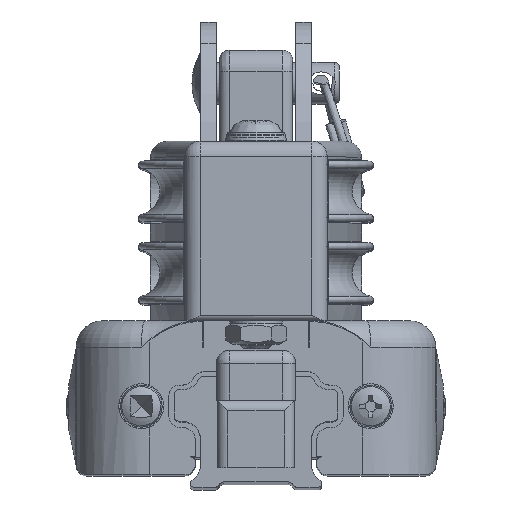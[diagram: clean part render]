
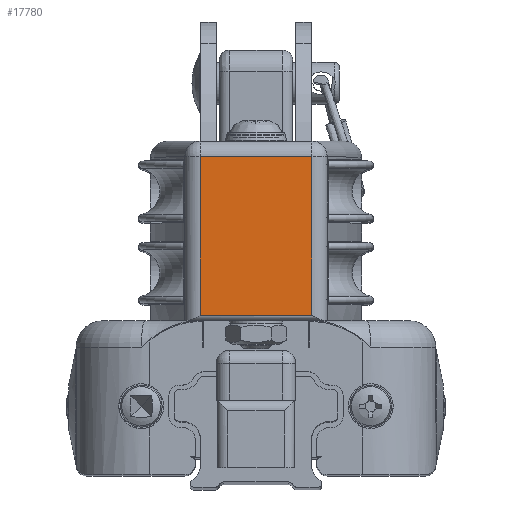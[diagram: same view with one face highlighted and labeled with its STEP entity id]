
A CAD part, top view. The second image highlights one B-rep face of the part: STEP entity #17780.
In plain terms, the highlighted planar face has unit normal (0, 0, 1).
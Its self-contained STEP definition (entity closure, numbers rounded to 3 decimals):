
#1129=LINE('',#29050,#2266);
#1678=LINE('',#33166,#2815);
#1692=LINE('',#33221,#2829);
#1693=LINE('',#33222,#2830);
#2266=VECTOR('',#21765,10.);
#2815=VECTOR('',#24500,10.);
#2829=VECTOR('',#24562,10.);
#2830=VECTOR('',#24563,10.);
#4245=FACE_OUTER_BOUND('',#5310,.T.);
#5310=EDGE_LOOP('',(#15295,#15296,#15297,#15298));
#7187=VERTEX_POINT('',#29030);
#7189=VERTEX_POINT('',#29041);
#8090=VERTEX_POINT('',#33149);
#8096=VERTEX_POINT('',#33164);
#9197=EDGE_CURVE('',#7187,#7189,#1129,.T.);
#10571=EDGE_CURVE('',#8096,#8090,#1678,.T.);
#10597=EDGE_CURVE('',#7187,#8096,#1692,.T.);
#10598=EDGE_CURVE('',#7189,#8090,#1693,.T.);
#15295=ORIENTED_EDGE('',*,*,#10571,.F.);
#15296=ORIENTED_EDGE('',*,*,#10597,.F.);
#15297=ORIENTED_EDGE('',*,*,#9197,.T.);
#15298=ORIENTED_EDGE('',*,*,#10598,.T.);
#16905=PLANE('',#19775);
#17780=ADVANCED_FACE('',(#4245),#16905,.T.);
#19775=AXIS2_PLACEMENT_3D('',#33220,#24560,#24561);
#21765=DIRECTION('',(1.,0.,0.));
#24500=DIRECTION('',(1.,0.,0.));
#24560=DIRECTION('center_axis',(0.,0.,
1.));
#24561=DIRECTION('ref_axis',(0.,1.,0.));
#24562=DIRECTION('',(0.,1.,0.));
#24563=DIRECTION('',(0.,1.,0.));
#29030=CARTESIAN_POINT('',(-10.6,32.7,110.));
#29041=CARTESIAN_POINT('',(10.6,32.7,110.));
#29050=CARTESIAN_POINT('',(0.,32.7,110.));
#33149=CARTESIAN_POINT('',(10.6,62.7,110.));
#33164=CARTESIAN_POINT('',(-10.6,62.7,110.));
#33166=CARTESIAN_POINT('',(0.,62.7,110.));
#33220=CARTESIAN_POINT('Origin',(0.,32.7,
110.));
#33221=CARTESIAN_POINT('',(-10.6,31.7,110.));
#33222=CARTESIAN_POINT('',(10.6,31.7,110.));
